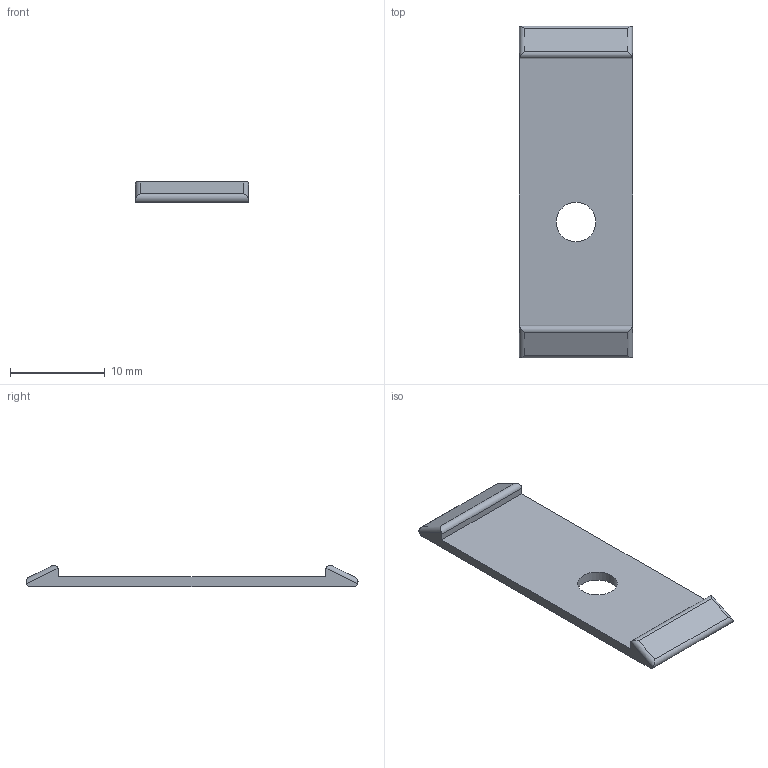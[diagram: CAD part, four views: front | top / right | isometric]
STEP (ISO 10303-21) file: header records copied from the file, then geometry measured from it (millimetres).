
FILE_DESCRIPTION(/* description */ (''),/* implementation_level */ '2;1');
FILE_NAME(/* name */ 'C:/Users/Ryan/Documents/AIO Robotics/CAD Files/BuckleBackRight.step',/* time_stamp */ '2017-02-04T20:46:08-08:00',/* author */ (''),/* organization */ (''),/* preprocessor_version */ 'ST-DEVELOPER v16.5',/* originating_system */ 'Autodesk Translation Framework v5.2.0.2920',/* authorisation */ '');
FILE_SCHEMA (('AUTOMOTIVE_DESIGN { 1 0 10303 214 3 1 1 }'));
Length unit declared in the file: inch
Products named in the file (1): BuckleBR v14
Bounding box: 11.94 x 35.07 x 2.23 mm (x, y, z)
Volume: 459.7 mm3; surface area: 943.8 mm2
Topology: 1 solids, 1 shells, 17 faces, 45 edges, 30 vertices
Faces by surface type: cylinder 9, plane 8
Full cylindrical faces by diameter (mm): 4.191 x1
Entity records: 560 total; most frequent: DIRECTION 98, CARTESIAN_POINT 92, ORIENTED_EDGE 88, EDGE_CURVE 44, AXIS2_PLACEMENT_3D 36, VERTEX_POINT 30, LINE 26, VECTOR 26
